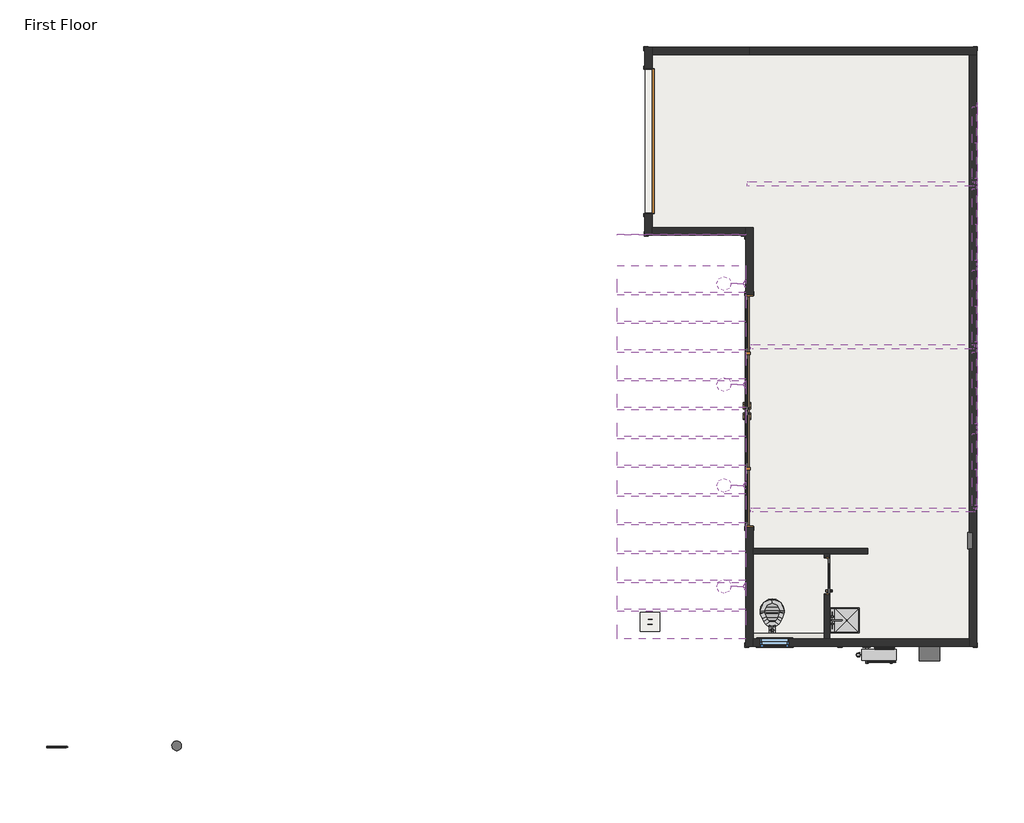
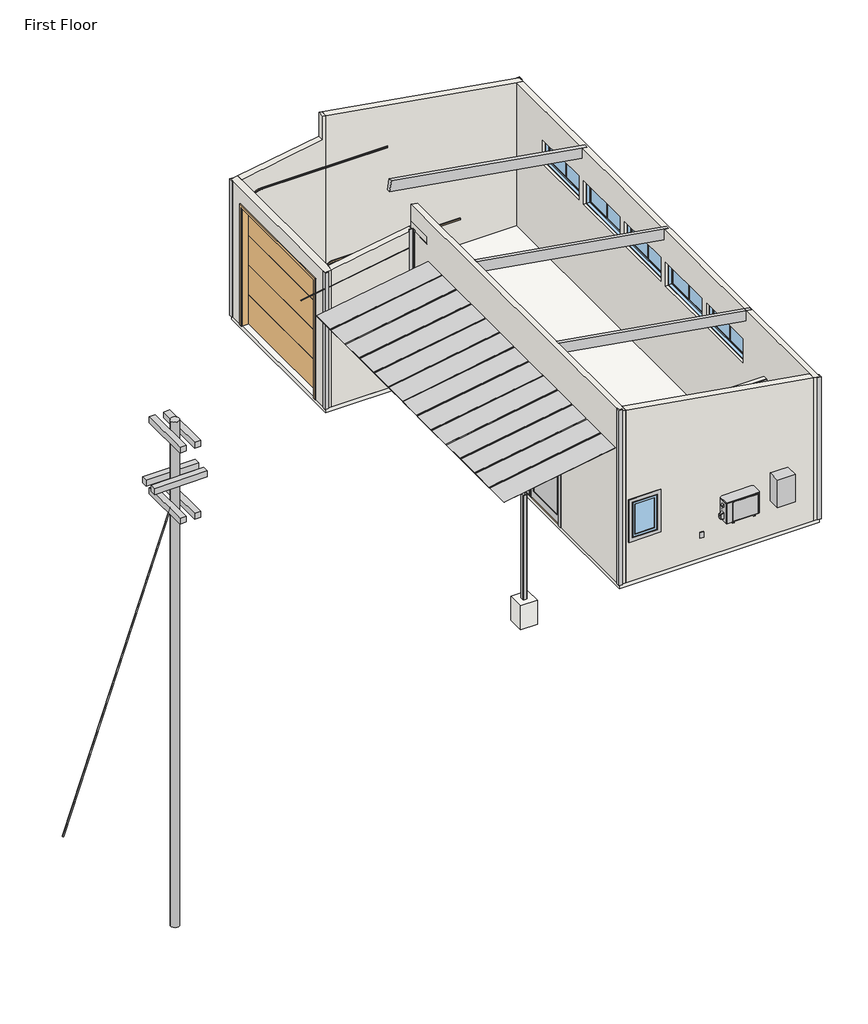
# One storey, incomplete: 27 proxies, 14 plates, 10 walls, 6 windows, 4 flow terminals, 4 light fixtures, 3 beams, 3 doors, 4 other elements.
"""IFC4 building model written with IfcOpenShell, lengths in millimetres."""

from ifc_helpers import new_model, si_unit, frame, origin, place, context, project, spatial, polyline, outline, extrude, faceted_brep, transform, mapped, element, save
from components import beam_2c6c7f6a, beam_14328633, beam_e43a8435, mechanical_equipment_aaba3eb6, corner_trim_corner_trim_585ee0fa, corner_trim_corner_trim_535f8f48, corner_trim_corner_trim_7638318b, corner_trim_corner_trim_e06842d9, door_slab_single_clear_bae8c83d, door_slab_single_door_slab_single_75744a2c, door_trim_picture_frame_standard_156ac413, electrical_panel_electrical_panel_b61275ab, muntin_pattern_2x1_muntin_pattern_2x1_0ce9f3d9, trim_window_exterior_flat_picture_frame_fb448c29, trim_window_interior_flat_picture_frame_c160d771, hss_hollow_structural_section_column_hss4x4x1_4_654df1e9, door_exterior_double_w_sidelights_16080_06d0ee3c, door_garage_flush_panel_100100_77b9260a, door_interior_shared_slab_2668_a920907e, hose_bib_single_with_trim_hose_bib_single_with_trim_27b6def0, plumbing_fixtures_generic_laundry_sink_plumbing_fixtures_38895788, tankless_water_heater_tankless_water_heater_312b1451, flow_terminal_46437620, utility_pole_e77af8a2, barn_light_barn_light_90f81144, system_panel_empty_106bb99e, system_panel_empty_6771c708, system_panel_empty_eeddd460, footing_rectangular_16x16x2_31c1ccfd, window_awning_single_5020_007f8b80, window_casement_single_right_2030_6a3f40d4

model = new_model("IFC4")

# Units and contexts
model_context = context("Model", 3, world=origin())
ifc_project = project(units=[si_unit("LENGTHUNIT", "METRE", prefix="MILLI")], contexts=[model_context])

# Site, building, storey
site = spatial("IfcSite", under=ifc_project)
building = spatial("IfcBuilding", under=site)
storey = spatial("IfcBuildingStorey", under=building, Name="First Floor", Elevation=0.0)

# Beams
placement = place(None, origin())
beam_shape = beam_2c6c7f6a(model_context)
element("IfcBeam", 1, ObjectType="Glulam : 3 1/2\" x 10 1/2\"", at=placement, inside=storey, context=model_context, shape_type="MappedRepresentation", body=[
    mapped(beam_shape, transform((14902.2524783, 9617.7499284, 3936.361554), x_axis=(-0.9863939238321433, 0.0, 0.1643989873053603), y_axis=(0.0, -1.0000000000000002, 0.0), z_axis=(0.16439898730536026, 0.0, 0.9863939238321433))),
])
beam_2_shape = beam_14328633(model_context)
element("IfcBeam", 2, ObjectType="Glulam : 3 1/2\" x 10 1/2\"", at=placement, inside=storey, context=model_context, shape_type="MappedRepresentation", body=[
    mapped(beam_2_shape, transform((14902.2524783, 6163.3499284, 3936.361554), x_axis=(-0.9863939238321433, 0.0, 0.1643989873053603), y_axis=(0.0, -1.0000000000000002, 0.0), z_axis=(0.16439898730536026, 0.0, 0.9863939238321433))),
])
beam_3_shape = beam_e43a8435(model_context)
element("IfcBeam", 3, ObjectType="Glulam : 3 1/2\" x 10 1/2\"", at=placement, inside=storey, context=model_context, shape_type="MappedRepresentation", body=[
    mapped(beam_3_shape, transform((14901.2099003, 13072.1499284, 3936.535317), x_axis=(-0.9863939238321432, 0.0, 0.16439898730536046), y_axis=(0.0, -1.0, 0.0), z_axis=(0.16439898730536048, 0.0, 0.9863939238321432))),
])

# Proxies
mechanical_equipment_shape = mechanical_equipment_aaba3eb6(model_context)
element("IfcBuildingElementProxy", 4, Name="Heat Pump-Split System-Outdoor-Carrier-Single Phase-0.75-3 ton : 38MAQB12R--1 - 115 v", ObjectType="Heat Pump-Split System-Outdoor-Carrier-Single Phase-0.75-3 ton : 38MAQB12R--1 - 115 v", at=placement, inside=storey, context=model_context, shape_type="MappedRepresentation", body=[
    mapped(mechanical_equipment_shape, transform((15305.1823175, 3096.1436614, 914.4), x_axis=(-1.0, 0.0, 0.0), y_axis=(0.0, -1.0, 0.0), z_axis=(0.0, 0.0, 1.0))),
])
corner_trim_corner_trim_shape = corner_trim_corner_trim_585ee0fa(model_context)
element("IfcBuildingElementProxy", 5, Name="Corner Trim : Corner Trim", ObjectType="Corner Trim : Corner Trim", at=placement, inside=storey, context=model_context, shape_type="MappedRepresentation", body=[
    mapped(corner_trim_corner_trim_shape, transform((17387.9750833, 3255.0499284, 0.0), x_axis=(0.0, 1.0, 0.0), y_axis=(-1.0, 0.0, 0.0), z_axis=(0.0, 0.0, 1.0))),
])
element("IfcBuildingElementProxy", 6, Name="Corner Trim : Corner Trim", ObjectType="Corner Trim : Corner Trim", at=placement, inside=storey, context=model_context, shape_type="MappedRepresentation", body=[
    mapped(corner_trim_corner_trim_shape, transform((17387.9750833, 15980.4499284, 0.0), x_axis=(-1.0, 0.0, 0.0), y_axis=(0.0, -1.0, 0.0), z_axis=(0.0, 0.0, 1.0))),
])
corner_trim_corner_trim_2_shape = corner_trim_corner_trim_535f8f48(model_context)
element("IfcBuildingElementProxy", 7, Name="Corner Trim : Corner Trim", ObjectType="Corner Trim : Corner Trim", at=placement, inside=storey, context=model_context, shape_type="MappedRepresentation", body=[
    mapped(corner_trim_corner_trim_2_shape, transform((10326.7750833, 15980.4499284, 0.0), x_axis=(0.0, -1.0, 0.0), y_axis=(1.0, 0.0, 0.0), z_axis=(0.0, 0.0, 1.0))),
])
element("IfcBuildingElementProxy", 8, Name="Corner Trim : Corner Trim", ObjectType="Corner Trim : Corner Trim", at=placement, inside=storey, context=model_context, shape_type="MappedRepresentation", body=[
    mapped(corner_trim_corner_trim_2_shape, transform((10329.1880833, 11969.6629284, 0.0), x_axis=(1.0, 0.0, 0.0), y_axis=(0.0, 1.0, 0.0), z_axis=(0.0, 0.0, 1.0))),
])
corner_trim_corner_trim_3_shape = corner_trim_corner_trim_7638318b(model_context)
element("IfcBuildingElementProxy", 9, Name="Corner Trim : Corner Trim", ObjectType="Corner Trim : Corner Trim", at=placement, inside=storey, context=model_context, shape_type="MappedRepresentation", body=[
    mapped(corner_trim_corner_trim_3_shape, transform((12460.3750833, 3255.0499284, 0.0), x_axis=(1.0, 0.0, 0.0), y_axis=(0.0, 1.0, 0.0), z_axis=(0.0, 0.0, 1.0))),
])
corner_trim_corner_trim_4_shape = corner_trim_corner_trim_e06842d9(model_context)
element("IfcBuildingElementProxy", 10, Name="Corner Trim : Corner Trim", ObjectType="Corner Trim : Corner Trim", at=placement, inside=storey, context=model_context, shape_type="MappedRepresentation", body=[
    mapped(corner_trim_corner_trim_4_shape, transform((12479.4250833, 11986.2999284, 0.0), x_axis=(-1.0, 0.0, 0.0), y_axis=(0.0, -1.0, 0.0), z_axis=(0.0, 0.0, 1.0))),
])
door_slab_single_clear_shape = door_slab_single_clear_bae8c83d(model_context)
element("IfcBuildingElementProxy", 11, Name="Door Slab Single : Clear", ObjectType="Door Slab Single : Clear", at=placement, inside=storey, context=model_context, shape_type="MappedRepresentation", body=[
    mapped(door_slab_single_clear_shape, transform((12509.5875833, 8855.7499284, 0.0), x_axis=(0.0, -1.0, 0.0), y_axis=(1.0, 0.0, 0.0), z_axis=(0.0, 0.0, 1.0))),
])
element("IfcBuildingElementProxy", 12, Name="Door Slab Single : Clear", ObjectType="Door Slab Single : Clear", at=placement, inside=storey, context=model_context, shape_type="MappedRepresentation", body=[
    mapped(door_slab_single_clear_shape, transform((12509.5875833, 7661.9499284, 0.0), x_axis=(0.0, -1.0, 0.0), y_axis=(1.0, 0.0, 0.0), z_axis=(0.0, 0.0, 1.0))),
])
element("IfcBuildingElementProxy", 13, Name="Door Slab Single : Clear", ObjectType="Door Slab Single : Clear", at=placement, inside=storey, context=model_context, shape_type="MappedRepresentation", body=[
    mapped(door_slab_single_clear_shape, transform((12509.5875833, 10100.3499284, 0.0), x_axis=(0.0, -1.0, 0.0), y_axis=(1.0, 0.0, 0.0), z_axis=(0.0, 0.0, 1.0))),
])
element("IfcBuildingElementProxy", 14, Name="Door Slab Single : Clear", ObjectType="Door Slab Single : Clear", at=placement, inside=storey, context=model_context, shape_type="MappedRepresentation", body=[
    mapped(door_slab_single_clear_shape, transform((12509.5875833, 6417.3499284, 0.0), x_axis=(0.0, -1.0, 0.0), y_axis=(1.0, 0.0, 0.0), z_axis=(0.0, 0.0, 1.0))),
])
door_slab_single_door_slab_single_shape = door_slab_single_door_slab_single_75744a2c(model_context)
element("IfcBuildingElementProxy", 15, Name="Door Slab Single : Door Slab Single", ObjectType="Door Slab Single : Door Slab Single", at=placement, inside=storey, context=model_context, shape_type="MappedRepresentation", body=[
    mapped(door_slab_single_door_slab_single_shape, transform((14246.3125833, 4765.9435284, 0.0), x_axis=(0.0, 1.0, 0.0), y_axis=(-1.0, 0.0, 0.0), z_axis=(0.0, 0.0, 1.0))),
])
door_trim_picture_frame_standard_shape = door_trim_picture_frame_standard_156ac413(model_context)
element("IfcBuildingElementProxy", 16, Name="Door Trim Picture Frame : Standard", ObjectType="Door Trim Picture Frame : Standard", at=placement, inside=storey, context=model_context, shape_type="MappedRepresentation", body=[
    mapped(door_trim_picture_frame_standard_shape, transform((12479.4250833, 8258.8499284, 2463.8), x_axis=(0.0, 1.0, 0.0), y_axis=(0.0, 0.0, -1.0), z_axis=(-1.0, 0.0, 0.0))),
])
element("IfcBuildingElementProxy", 17, Name="Door Trim Picture Frame : Standard", ObjectType="Door Trim Picture Frame : Standard", at=placement, inside=storey, context=model_context, shape_type="MappedRepresentation", body=[
    mapped(door_trim_picture_frame_standard_shape, transform((12638.1750833, 8258.8499284, 2463.8), x_axis=(0.0, -1.0, 0.0), y_axis=(0.0, 0.0, -1.0), z_axis=(1.0, 0.0, 0.0))),
])
electrical_panel_electrical_panel_shape = electrical_panel_electrical_panel_b61275ab(model_context)
element("IfcBuildingElementProxy", 18, Name="Electrical Panel : Electrical Panel", ObjectType="Electrical Panel : Electrical Panel", at=placement, inside=storey, context=model_context, shape_type="MappedRepresentation", body=[
    mapped(electrical_panel_electrical_panel_shape, transform((17210.1750833, 5510.7223284, 1219.2), x_axis=(0.0, -1.0, 0.0), y_axis=(0.0, 0.0, 1.0), z_axis=(-1.0, 0.0, 0.0))),
])
muntin_pattern_2x1_muntin_pattern_2x1_shape = muntin_pattern_2x1_muntin_pattern_2x1_0ce9f3d9(model_context)
element("IfcBuildingElementProxy", 19, Name="Muntin Pattern_2x1 : Muntin Pattern_2x1", ObjectType="Muntin Pattern_2x1 : Muntin Pattern_2x1", at=placement, inside=storey, context=model_context, shape_type="MappedRepresentation", body=[
    mapped(muntin_pattern_2x1_muntin_pattern_2x1_shape, transform((17359.4000833, 13941.5372614, 2330.45), x_axis=(0.0, -1.0, 0.0), y_axis=(1.0, 0.0, 0.0), z_axis=(0.0, 0.0, 1.0))),
])
element("IfcBuildingElementProxy", 20, Name="Muntin Pattern_2x1 : Muntin Pattern_2x1", ObjectType="Muntin Pattern_2x1 : Muntin Pattern_2x1", at=placement, inside=storey, context=model_context, shape_type="MappedRepresentation", body=[
    mapped(muntin_pattern_2x1_muntin_pattern_2x1_shape, transform((17359.4000833, 12211.1622614, 2330.45), x_axis=(0.0, -1.0, 0.0), y_axis=(1.0, 0.0, 0.0), z_axis=(0.0, 0.0, 1.0))),
])
element("IfcBuildingElementProxy", 21, Name="Muntin Pattern_2x1 : Muntin Pattern_2x1", ObjectType="Muntin Pattern_2x1 : Muntin Pattern_2x1", at=placement, inside=storey, context=model_context, shape_type="MappedRepresentation", body=[
    mapped(muntin_pattern_2x1_muntin_pattern_2x1_shape, transform((17359.4000833, 10480.7872614, 2330.45), x_axis=(0.0, -1.0, 0.0), y_axis=(1.0, 0.0, 0.0), z_axis=(0.0, 0.0, 1.0))),
])
element("IfcBuildingElementProxy", 22, Name="Muntin Pattern_2x1 : Muntin Pattern_2x1", ObjectType="Muntin Pattern_2x1 : Muntin Pattern_2x1", at=placement, inside=storey, context=model_context, shape_type="MappedRepresentation", body=[
    mapped(muntin_pattern_2x1_muntin_pattern_2x1_shape, transform((17359.4000833, 8750.4122614, 2330.45), x_axis=(0.0, -1.0, 0.0), y_axis=(1.0, 0.0, 0.0), z_axis=(0.0, 0.0, 1.0))),
])
element("IfcBuildingElementProxy", 23, Name="Muntin Pattern_2x1 : Muntin Pattern_2x1", ObjectType="Muntin Pattern_2x1 : Muntin Pattern_2x1", at=placement, inside=storey, context=model_context, shape_type="MappedRepresentation", body=[
    mapped(muntin_pattern_2x1_muntin_pattern_2x1_shape, transform((17359.4000833, 7020.0372614, 2330.45), x_axis=(0.0, -1.0, 0.0), y_axis=(1.0, 0.0, 0.0), z_axis=(0.0, 0.0, 1.0))),
])
trim_window_exterior_flat_picture_frame_shape = trim_window_exterior_flat_picture_frame_fb448c29(model_context)
element("IfcBuildingElementProxy", 24, Name="Trim-Window-Exterior-Flat : Picture Frame", ObjectType="Trim-Window-Exterior-Flat : Picture Frame", at=placement, inside=storey, context=model_context, shape_type="MappedRepresentation", body=[
    mapped(trim_window_exterior_flat_picture_frame_shape, transform((13093.4954833, 3274.0999284, 2032.0), x_axis=(1.0, 0.0, 0.0), y_axis=(0.0, 0.0, 1.0), z_axis=(0.0, -1.0, 0.0))),
])
element("IfcBuildingElementProxy", 25, Name="Trim-Window-Exterior-Flat : Picture Frame Left", ObjectType="Trim-Window-Exterior-Flat : Picture Frame Left", at=placement, inside=storey, context=model_context, shape_type="SweptSolid", body=[
    extrude(outline(polyline([(7885.2247614, 2959.1), (7885.2247614, 2171.7), (6169.1372614, 2171.7), (6169.1372614, 2959.1), (7885.2247614, 2959.1)]), holes=[polyline([(7782.0372614, 2870.2), (6258.0372614, 2870.2), (6258.0372614, 2260.6), (7782.0372614, 2260.6), (7782.0372614, 2870.2)])]), frame((17368.9250833, 0.0, 0.0), z_axis=(1.0, 0.0, 0.0), x_axis=(0.0, 1.0, 0.0)), (0.0, 0.0, 1.0), 19.05),
])
element("IfcBuildingElementProxy", 26, Name="Trim-Window-Exterior-Flat : Picture Frame Middle", ObjectType="Trim-Window-Exterior-Flat : Picture Frame Middle", at=placement, inside=storey, context=model_context, shape_type="SweptSolid", body=[
    extrude(outline(polyline([(9615.5997614, 2959.1), (9615.5997614, 2171.7), (7885.2247614, 2171.7), (7885.2247614, 2959.1), (9615.5997614, 2959.1)]), holes=[polyline([(9512.4122614, 2870.2), (7988.4122614, 2870.2), (7988.4122614, 2260.6), (9512.4122614, 2260.6), (9512.4122614, 2870.2)])]), frame((17368.9250833, 0.0, 0.0), z_axis=(1.0, 0.0, 0.0), x_axis=(0.0, 1.0, 0.0)), (0.0, 0.0, 1.0), 19.05),
])
element("IfcBuildingElementProxy", 27, Name="Trim-Window-Exterior-Flat : Picture Frame Middle", ObjectType="Trim-Window-Exterior-Flat : Picture Frame Middle", at=placement, inside=storey, context=model_context, shape_type="SweptSolid", body=[
    extrude(outline(polyline([(11345.9747614, 2959.1), (11345.9747614, 2171.7), (9615.5997614, 2171.7), (9615.5997614, 2959.1), (11345.9747614, 2959.1)]), holes=[polyline([(11242.7872614, 2870.2), (9718.7872614, 2870.2), (9718.7872614, 2260.6), (11242.7872614, 2260.6), (11242.7872614, 2870.2)])]), frame((17368.9250833, 0.0, 0.0), z_axis=(1.0, 0.0, 0.0), x_axis=(0.0, 1.0, 0.0)), (0.0, 0.0, 1.0), 19.05),
])
element("IfcBuildingElementProxy", 28, Name="Trim-Window-Exterior-Flat : Picture Frame Middle", ObjectType="Trim-Window-Exterior-Flat : Picture Frame Middle", at=placement, inside=storey, context=model_context, shape_type="SweptSolid", body=[
    extrude(outline(polyline([(13076.3497614, 2959.1), (13076.3497614, 2171.7), (11345.9747614, 2171.7), (11345.9747614, 2959.1), (13076.3497614, 2959.1)]), holes=[polyline([(12973.1622614, 2870.2), (11449.1622614, 2870.2), (11449.1622614, 2260.6), (12973.1622614, 2260.6), (12973.1622614, 2870.2)])]), frame((17368.9250833, 0.0, 0.0), z_axis=(1.0, 0.0, 0.0), x_axis=(0.0, 1.0, 0.0)), (0.0, 0.0, 1.0), 19.05),
])
element("IfcBuildingElementProxy", 29, Name="Trim-Window-Exterior-Flat : Picture Frame Right", ObjectType="Trim-Window-Exterior-Flat : Picture Frame Right", at=placement, inside=storey, context=model_context, shape_type="SweptSolid", body=[
    extrude(outline(polyline([(14792.4372614, 2959.1), (14792.4372614, 2171.7), (13076.3497614, 2171.7), (13076.3497614, 2959.1), (14792.4372614, 2959.1)]), holes=[polyline([(14703.5372614, 2870.2), (13179.5372614, 2870.2), (13179.5372614, 2260.6), (14703.5372614, 2260.6), (14703.5372614, 2870.2)])]), frame((17368.9250833, 0.0, 0.0), z_axis=(1.0, 0.0, 0.0), x_axis=(0.0, 1.0, 0.0)), (0.0, 0.0, 1.0), 19.05),
])
trim_window_interior_flat_picture_frame_shape = trim_window_interior_flat_picture_frame_c160d771(model_context)
element("IfcBuildingElementProxy", 30, Name="Trim-Window-Interior-Flat : Picture Frame", ObjectType="Trim-Window-Interior-Flat : Picture Frame", at=placement, inside=storey, context=model_context, shape_type="MappedRepresentation", body=[
    mapped(trim_window_interior_flat_picture_frame_shape, transform((13093.4954833, 3432.8499284, 2032.0), x_axis=(-1.0, 0.0, 0.0), y_axis=(0.0, 0.0, 1.0), z_axis=(0.0, 1.0, 0.0))),
])

# Column
hss_hollow_structural_section_column_hss4x4x1_4_shape = hss_hollow_structural_section_column_hss4x4x1_4_654df1e9(model_context)
element("IfcColumn", 31, ObjectType="HSS-Hollow Structural Section-Column : HSS4X4X1/4", at=placement, inside=storey, context=model_context, shape_type="MappedRepresentation", body=[
    mapped(hss_hollow_structural_section_column_hss4x4x1_4_shape, transform((10457.4307224, 3791.1892614, 0.0), x_axis=(1.0, 0.0, 0.0), y_axis=(0.0, 1.0, 0.0), z_axis=(0.0, 0.0, 1.0))),
])

# Doors
door_exterior_double_w_sidelights_16080_shape = door_exterior_double_w_sidelights_16080_06d0ee3c(model_context)
element("IfcDoor", 32, ObjectType="Door-Exterior-Double-w-Sidelights : 16080", at=placement, inside=storey, context=model_context, shape_type="MappedRepresentation", body=[
    mapped(door_exterior_double_w_sidelights_16080_shape, transform((12555.6250833, 8258.8499284, 0.0), x_axis=(0.0, -1.0, 0.0), y_axis=(1.0, 0.0, 0.0), z_axis=(0.0, 0.0, 1.0))),
])
door_garage_flush_panel_100100_shape = door_garage_flush_panel_100100_77b9260a(model_context)
element("IfcDoor", 33, ObjectType="Door-Garage-Flush_Panel : 100100", at=placement, inside=storey, context=model_context, shape_type="MappedRepresentation", body=[
    mapped(door_garage_flush_panel_100100_shape, transform((10422.0250833, 13974.4595284, 0.0), x_axis=(0.0, 1.0, 0.0), y_axis=(-1.0, 0.0, 0.0), z_axis=(0.0, 0.0, 1.0))),
])
door_interior_shared_slab_2668_shape = door_interior_shared_slab_2668_a920907e(model_context)
element("IfcDoor", 34, ObjectType="Door-Interior-Shared-Slab : 2668", at=placement, inside=storey, context=model_context, shape_type="MappedRepresentation", body=[
    mapped(door_interior_shared_slab_2668_shape, transform((14209.8000833, 4765.9435284, 0.0), x_axis=(0.0, 1.0, 0.0), y_axis=(-1.0, 0.0, 0.0), z_axis=(0.0, 0.0, 1.0))),
])

# Flow terminals
hose_bib_single_with_trim_hose_bib_single_with_trim_shape = hose_bib_single_with_trim_hose_bib_single_with_trim_27b6def0(model_context)
element("IfcFlowTerminal", 35, ObjectType="Hose Bib Single with Trim : Hose Bib Single with Trim", at=placement, inside=storey, context=model_context, shape_type="MappedRepresentation", body=[
    mapped(hose_bib_single_with_trim_hose_bib_single_with_trim_shape, transform((14465.778529, 3353.4749284, -211.2264), x_axis=(-1.0, 0.0, 0.0), y_axis=(0.0, -1.0, 0.0), z_axis=(0.0, 0.0, 1.0))),
])
plumbing_fixtures_generic_laundry_sink_plumbing_fixtures_shape = plumbing_fixtures_generic_laundry_sink_plumbing_fixtures_38895788(model_context)
element("IfcFlowTerminal", 36, ObjectType="Plumbing_Fixtures-Generic-Laundry_Sink : Plumbing_Fixtures-Generic-Laundry_Sink", at=placement, inside=storey, context=model_context, shape_type="MappedRepresentation", body=[
    mapped(plumbing_fixtures_generic_laundry_sink_plumbing_fixtures_shape, transform((14568.5750833, 3826.2959284, 0.0), x_axis=(0.0, 1.0, 0.0), y_axis=(-1.0, 0.0, 0.0), z_axis=(0.0, 0.0, 1.0))),
])
tankless_water_heater_tankless_water_heater_shape = tankless_water_heater_tankless_water_heater_312b1451(model_context)
element("IfcFlowTerminal", 37, ObjectType="Tankless Water Heater : Tankless Water Heater", at=placement, inside=storey, context=model_context, shape_type="MappedRepresentation", body=[
    mapped(tankless_water_heater_tankless_water_heater_shape, transform((16375.1500833, 3274.0999284, 1244.6), x_axis=(1.0, 0.0, 0.0), y_axis=(0.0, 0.0, 1.0), z_axis=(0.0, -1.0, 0.0))),
])
flow_terminal_shape = flow_terminal_46437620(model_context)
element("IfcFlowTerminal", 38, ObjectType="Toilet-Commercial-Wall-3D : 15\" Seat Height", at=placement, inside=storey, context=model_context, shape_type="MappedRepresentation", body=[
    mapped(flow_terminal_shape, transform((12637.9955294, 3489.9999284, 0.0), x_axis=(1.0, 0.0, 0.0), y_axis=(0.0, 1.0, 0.0), z_axis=(0.0, 0.0, 1.0))),
])

# Geographic element
utility_pole_shape = utility_pole_e77af8a2(model_context)
element("IfcGeographicElement", 39, ObjectType="Utility-Pole : All-Utilities", at=placement, inside=storey, context=model_context, shape_type="MappedRepresentation", body=[
    mapped(utility_pole_shape, transform((435.5766605, 1169.3025477, 0.0), x_axis=(0.9999507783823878, 0.00992173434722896, 0.0), y_axis=(-0.00992173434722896, 0.9999507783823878, 0.0), z_axis=(0.0, 0.0, 1.0))),
])

# Light fixtures
barn_light_barn_light_shape = barn_light_barn_light_90f81144(model_context)
element("IfcLightFixture", 40, ObjectType="Barn Light : Barn Light", at=placement, inside=storey, context=model_context, shape_type="MappedRepresentation", body=[
    mapped(barn_light_barn_light_shape, transform((12479.4250833, 10958.5651284, 2743.2), x_axis=(0.0, -1.0, 0.0), y_axis=(0.0, 0.0, 1.0), z_axis=(-1.0, 0.0, 0.0))),
])
element("IfcLightFixture", 41, ObjectType="Barn Light : Barn Light", at=placement, inside=storey, context=model_context, shape_type="MappedRepresentation", body=[
    mapped(barn_light_barn_light_shape, transform((12479.4250833, 8820.4608617, 2743.2), x_axis=(0.0, -1.0, 0.0), y_axis=(0.0, 0.0, 1.0), z_axis=(-1.0, 0.0, 0.0))),
])
element("IfcLightFixture", 42, ObjectType="Barn Light : Barn Light", at=placement, inside=storey, context=model_context, shape_type="MappedRepresentation", body=[
    mapped(barn_light_barn_light_shape, transform((12479.4250833, 6682.3565951, 2743.2), x_axis=(0.0, -1.0, 0.0), y_axis=(0.0, 0.0, 1.0), z_axis=(-1.0, 0.0, 0.0))),
])
element("IfcLightFixture", 43, ObjectType="Barn Light : Barn Light", at=placement, inside=storey, context=model_context, shape_type="MappedRepresentation", body=[
    mapped(barn_light_barn_light_shape, transform((12479.4250833, 4544.2523284, 2743.2), x_axis=(0.0, -1.0, 0.0), y_axis=(0.0, 0.0, 1.0), z_axis=(-1.0, 0.0, 0.0))),
])

# Plates
system_panel_empty_shape = system_panel_empty_106bb99e(model_context)
element("IfcPlate", 44, ObjectType="System Panel : Empty", at=placement, inside=storey, context=model_context, shape_type="MappedRepresentation", body=[
    mapped(system_panel_empty_shape, transform((9759.2780204, 11052.8499287, 2990.2963878), x_axis=(0.0, -1.0, 0.0), y_axis=(0.1643989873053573, 0.0, -0.9863939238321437), z_axis=(0.9863939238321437, 0.0, 0.1643989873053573))),
])
element("IfcPlate", 45, ObjectType="System Panel : Empty", at=placement, inside=storey, context=model_context, shape_type="MappedRepresentation", body=[
    mapped(system_panel_empty_shape, transform((9759.2780204, 10443.2499287, 2990.2963878), x_axis=(0.0, -1.0, 0.0), y_axis=(0.1643989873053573, 0.0, -0.9863939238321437), z_axis=(0.9863939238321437, 0.0, 0.1643989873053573))),
])
element("IfcPlate", 46, ObjectType="System Panel : Empty", at=placement, inside=storey, context=model_context, shape_type="MappedRepresentation", body=[
    mapped(system_panel_empty_shape, transform((9759.2780204, 9833.6499287, 2990.2963878), x_axis=(0.0, -1.0, 0.0), y_axis=(0.1643989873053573, 0.0, -0.9863939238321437), z_axis=(0.9863939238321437, 0.0, 0.1643989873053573))),
])
element("IfcPlate", 47, ObjectType="System Panel : Empty", at=placement, inside=storey, context=model_context, shape_type="MappedRepresentation", body=[
    mapped(system_panel_empty_shape, transform((9759.2780204, 9224.0499287, 2990.2963878), x_axis=(0.0, -1.0, 0.0), y_axis=(0.1643989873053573, 0.0, -0.9863939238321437), z_axis=(0.9863939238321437, 0.0, 0.1643989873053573))),
])
element("IfcPlate", 48, ObjectType="System Panel : Empty", at=placement, inside=storey, context=model_context, shape_type="MappedRepresentation", body=[
    mapped(system_panel_empty_shape, transform((9759.2780204, 8614.4499287, 2990.2963878), x_axis=(0.0, -1.0, 0.0), y_axis=(0.1643989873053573, 0.0, -0.9863939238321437), z_axis=(0.9863939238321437, 0.0, 0.1643989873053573))),
])
element("IfcPlate", 49, ObjectType="System Panel : Empty", at=placement, inside=storey, context=model_context, shape_type="MappedRepresentation", body=[
    mapped(system_panel_empty_shape, transform((9759.2780204, 8004.8499287, 2990.2963878), x_axis=(0.0, -1.0, 0.0), y_axis=(0.1643989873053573, 0.0, -0.9863939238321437), z_axis=(0.9863939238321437, 0.0, 0.1643989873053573))),
])
element("IfcPlate", 50, ObjectType="System Panel : Empty", at=placement, inside=storey, context=model_context, shape_type="MappedRepresentation", body=[
    mapped(system_panel_empty_shape, transform((9759.2780204, 7395.2499287, 2990.2963878), x_axis=(0.0, -1.0, 0.0), y_axis=(0.1643989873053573, 0.0, -0.9863939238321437), z_axis=(0.9863939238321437, 0.0, 0.1643989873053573))),
])
element("IfcPlate", 51, ObjectType="System Panel : Empty", at=placement, inside=storey, context=model_context, shape_type="MappedRepresentation", body=[
    mapped(system_panel_empty_shape, transform((9759.2780204, 6785.6499287, 2990.2963878), x_axis=(0.0, -1.0, 0.0), y_axis=(0.1643989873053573, 0.0, -0.9863939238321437), z_axis=(0.9863939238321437, 0.0, 0.1643989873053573))),
])
element("IfcPlate", 52, ObjectType="System Panel : Empty", at=placement, inside=storey, context=model_context, shape_type="MappedRepresentation", body=[
    mapped(system_panel_empty_shape, transform((9759.2780204, 6176.0499287, 2990.2963878), x_axis=(0.0, -1.0, 0.0), y_axis=(0.1643989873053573, 0.0, -0.9863939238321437), z_axis=(0.9863939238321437, 0.0, 0.1643989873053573))),
])
element("IfcPlate", 53, ObjectType="System Panel : Empty", at=placement, inside=storey, context=model_context, shape_type="MappedRepresentation", body=[
    mapped(system_panel_empty_shape, transform((9759.2780204, 5566.4499287, 2990.2963878), x_axis=(0.0, -1.0, 0.0), y_axis=(0.1643989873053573, 0.0, -0.9863939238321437), z_axis=(0.9863939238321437, 0.0, 0.1643989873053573))),
])
element("IfcPlate", 54, ObjectType="System Panel : Empty", at=placement, inside=storey, context=model_context, shape_type="MappedRepresentation", body=[
    mapped(system_panel_empty_shape, transform((9759.2780204, 4956.8499287, 2990.2963878), x_axis=(0.0, -1.0, 0.0), y_axis=(0.1643989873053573, 0.0, -0.9863939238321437), z_axis=(0.9863939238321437, 0.0, 0.1643989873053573))),
])
element("IfcPlate", 55, ObjectType="System Panel : Empty", at=placement, inside=storey, context=model_context, shape_type="MappedRepresentation", body=[
    mapped(system_panel_empty_shape, transform((9759.2780204, 4347.2499287, 2990.2963878), x_axis=(0.0, -1.0, 0.0), y_axis=(0.1643989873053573, 0.0, -0.9863939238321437), z_axis=(0.9863939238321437, 0.0, 0.1643989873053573))),
])
system_panel_empty_2_shape = system_panel_empty_6771c708(model_context)
element("IfcPlate", 56, ObjectType="System Panel : Empty", at=placement, inside=storey, context=model_context, shape_type="MappedRepresentation", body=[
    mapped(system_panel_empty_2_shape, transform((9759.2780204, 11996.7409469, 2990.2963878), x_axis=(0.0, -1.0, 0.0), y_axis=(0.1643989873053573, 0.0, -0.9863939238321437), z_axis=(0.9863939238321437, 0.0, 0.1643989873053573))),
])
system_panel_empty_3_shape = system_panel_empty_eeddd460(model_context)
element("IfcPlate", 57, ObjectType="System Panel : Empty", at=placement, inside=storey, context=model_context, shape_type="MappedRepresentation", body=[
    mapped(system_panel_empty_3_shape, transform((9759.2780204, 3728.1249286, 2990.2963878), x_axis=(0.0, -1.0, 0.0), y_axis=(0.1643989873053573, 0.0, -0.9863939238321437), z_axis=(0.9863939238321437, 0.0, 0.1643989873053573))),
])

# Slabs
element("IfcSlab", 58, ObjectType="Concrete 4\" Broom", at=placement, inside=storey, context=model_context, shape_type="SweptSolid", body=[
    extrude(outline(polyline([(10352.1750833, 15955.0499284), (17362.5750833, 15955.0499284), (17362.5750833, 3280.4499284), (12485.7750833, 3280.4499284), (12485.7750833, 11992.6499284), (10352.1750833, 11992.6499284), (10352.1750833, 15955.0499284)])), frame((0.0, 0.0, -101.6), z_axis=(0.0, 0.0, 1.0), x_axis=(1.0, 0.0, 0.0)), (0.0, 0.0, 1.0), 101.6),
])
footing_rectangular_16x16x2_shape = footing_rectangular_16x16x2_31c1ccfd(model_context)
element("IfcSlab", 59, ObjectType="Footing-Rectangular : 16x16x2", at=placement, inside=storey, context=model_context, shape_type="MappedRepresentation", body=[
    mapped(footing_rectangular_16x16x2_shape, transform((10457.4307224, 3791.1892614, 50.8), x_axis=(1.0, 0.0, 0.0), y_axis=(0.0, 1.0, 0.0), z_axis=(0.0, 0.0, 1.0))),
])

# Walls
element("IfcWall", 60, ObjectType="Interior 4” Stud Wall Plywood", at=placement, inside=storey, context=model_context, shape_type="Brep", body=[
    faceted_brep([(14149.4750833, 3432.8499284, 2133.6), (14149.4750833, 5236.2499284, 2133.6), (14149.4750833, 5236.2499284, 0.0), (14149.4750833, 5172.3435284, 0.0), (14149.4750833, 5172.3435284, 2057.4), (14149.4750833, 4359.5435284, 2057.4), (14149.4750833, 4359.5435284, 0.0), (14149.4750833, 3547.1499284, 0.0), (14149.4750833, 3432.8499284, 0.0), (14149.4750833, 3432.8499284, 1117.6), (14263.7750833, 5236.2499284, 2133.6), (14263.7750833, 3432.8499284, 2133.6), (14263.7750833, 3432.8499284, 0.0), (14263.7750833, 4359.5435284, 0.0), (14263.7750833, 4359.5435284, 2057.4), (14263.7750833, 5172.3435284, 2057.4), (14263.7750833, 5172.3435284, 0.0), (14263.7750833, 5236.2499284, 0.0), (14162.1750833, 5236.2499284, 2133.6), (14162.1750833, 3432.8499284, 2133.6)], [[[0, 1, 2, 3, 4, 5, 6, 7, 8, 9]], [[10, 11, 12, 13, 14, 15, 16, 17]], [[12, 8, 7, 6, 13]], [[2, 17, 16, 3]], [[11, 10, 18, 19]], [[1, 0, 19, 18]], [[0, 9, 8, 12, 11, 19]], [[2, 1, 18, 10, 17]], [[15, 4, 3, 16]], [[4, 15, 14, 5]], [[5, 14, 13, 6]]]),
])
element("IfcWall", 61, ObjectType="Interior 4” Stud Wall Plywood", at=placement, inside=storey, context=model_context, shape_type="Brep", body=[
    faceted_brep([(12638.1750833, 5236.2499284, 0.0), (14149.4750833, 5236.2499284, 0.0), (14263.7750833, 5236.2499284, 0.0), (15063.8750833, 5236.2499284, 0.0), (15063.8750833, 5236.2499284, 2254.25), (17210.1750833, 5236.2499284, 2254.25), (17210.1750833, 5236.2499284, 2457.45), (12638.1750833, 5236.2499284, 2457.45), (12638.1750833, 5350.5499284, 0.0), (12638.1750833, 5350.5499284, 2457.45), (17210.1750833, 5350.5499284, 2457.45), (17210.1750833, 5350.5499284, 2254.25), (15063.8750833, 5350.5499284, 2254.25), (15063.8750833, 5350.5499284, 0.0), (17210.1750833, 5248.9499284, 2457.45), (12638.1750833, 5248.9499284, 2457.45)], [[[0, 1, 2, 3, 4, 5, 6, 7]], [[8, 9, 10, 11, 12, 13]], [[7, 6, 14, 15]], [[0, 7, 15, 9, 8]], [[3, 2, 1, 0, 8, 13]], [[4, 3, 13, 12]], [[14, 10, 9, 15]], [[5, 4, 12, 11]], [[6, 5, 11, 10, 14]]]),
])
element("IfcWall", 62, ObjectType="Interior 4” Stud Wall Plywood", at=placement, inside=storey, context=model_context, shape_type="SweptSolid", body=[
    extrude(outline(polyline([(3432.8499284, 0.0), (3432.8499284, 1117.6), (3445.5499284, 1117.6), (3547.1499284, 1117.6), (3547.1499284, 0.0), (3432.8499284, 0.0)])), frame((12638.1750833, 0.0, 0.0), z_axis=(1.0, 0.0, 0.0), x_axis=(0.0, 1.0, 0.0)), (0.0, 0.0, 1.0), 1511.3),
])
element("IfcWall", 63, ObjectType="5.5\" SIP Hardie - Plywood", at=placement, inside=storey, context=model_context, shape_type="Brep", body=[
    faceted_brep([(10504.5750833, 15961.3999284, 0.0), (10504.5750833, 15961.3999284, 3530.6), (10504.5750833, 15802.6499284, 3530.6), (10504.5750833, 12145.0499284, 3530.6), (10504.5750833, 11986.2999284, 3530.6), (10504.5750833, 11986.2999284, 0.0), (10504.5750833, 12145.0499284, 0.0), (10504.5750833, 12425.0595284, 0.0), (10504.5750833, 12425.0595284, 3073.4), (10504.5750833, 15523.8595284, 3073.4), (10504.5750833, 15523.8595284, 0.0), (10504.5750833, 15802.6499284, 0.0), (10345.8250833, 15961.3999284, 3504.1416667), (10345.8250833, 15961.3999284, 0.0), (10345.8250833, 15523.8595284, 0.0), (10345.8250833, 15523.8595284, 3073.4), (10345.8250833, 12425.0595284, 3073.4), (10345.8250833, 12425.0595284, 0.0), (10345.8250833, 11986.2999284, 0.0), (10345.8250833, 11986.2999284, 3504.1416667), (10352.1750833, 15961.3999284, 0.0), (10352.1750833, 15523.8595284, 0.0), (10352.1750833, 11986.2999284, 0.0), (10352.1750833, 12425.0595284, 0.0)], [[[0, 1, 2, 3, 4, 5, 6, 7, 8, 9, 10, 11]], [[12, 13, 14, 15, 16, 17, 18, 19]], [[20, 0, 11, 10, 21]], [[5, 22, 23, 7, 6]], [[1, 0, 20, 13, 12]], [[5, 4, 19, 18, 22]], [[13, 20, 21, 14]], [[22, 18, 17, 23]], [[9, 15, 14, 21, 10]], [[15, 9, 8, 16]], [[16, 8, 7, 23, 17]], [[4, 3, 2, 1, 12, 19]]]),
])
element("IfcWall", 64, ObjectType="5.5\" SIP Hardie - Plywood", at=placement, inside=storey, context=model_context, shape_type="Brep", body=[
    faceted_brep([(10504.5750833, 15802.6499284, 0.0), (12558.8000833, 15802.6499284, 0.0), (12558.8000833, 15802.6499284, 4459.6879505), (12485.7750833, 15802.6499284, 4471.8587838), (12485.7750833, 15802.6499284, 3860.8), (10504.5750833, 15802.6499284, 3530.6), (10504.5750833, 15961.3999284, 0.0), (10504.5750833, 15961.3999284, 3530.6), (12485.7750833, 15961.3999284, 3860.8), (12485.7750833, 15961.3999284, 4471.8587838), (12558.8000833, 15961.3999284, 4459.6879505), (12558.8000833, 15961.3999284, 0.0), (12558.8000833, 15955.0499284, 0.0), (10504.5750833, 15955.0499284, 0.0), (12485.7750833, 15955.0499284, 3860.8)], [[[0, 1, 2, 3, 4, 5]], [[6, 7, 8, 9, 10, 11]], [[2, 1, 12, 11, 10]], [[1, 0, 13, 12]], [[0, 5, 7, 6, 13]], [[13, 6, 11, 12]], [[3, 9, 8, 14, 4]], [[5, 4, 14, 8, 7]], [[3, 2, 10, 9]]]),
])
element("IfcWall", 65, ObjectType="5.5\" SIP Hardie - Plywood", at=placement, inside=storey, context=model_context, shape_type="Brep", body=[
    faceted_brep([(17210.1750833, 15802.6499284, 0.0), (17210.1750833, 3432.8499284, 0.0), (17210.1750833, 3274.0999284, 0.0), (17210.1750833, 3274.0999284, 3684.4587838), (17210.1750833, 3432.8499284, 3684.4587838), (17210.1750833, 15802.6499284, 3684.4587838), (17210.1750833, 6258.0372614, 2870.2), (17210.1750833, 6258.0372614, 2260.6), (17210.1750833, 7782.0372614, 2260.6), (17210.1750833, 7782.0372614, 2870.2), (17210.1750833, 7988.4122614, 2870.2), (17210.1750833, 7988.4122614, 2260.6), (17210.1750833, 9512.4122614, 2260.6), (17210.1750833, 9512.4122614, 2870.2), (17210.1750833, 9718.7872614, 2870.2), (17210.1750833, 9718.7872614, 2260.6), (17210.1750833, 11242.7872614, 2260.6), (17210.1750833, 11242.7872614, 2870.2), (17210.1750833, 11449.1622614, 2870.2), (17210.1750833, 11449.1622614, 2260.6), (17210.1750833, 12973.1622614, 2260.6), (17210.1750833, 12973.1622614, 2870.2), (17210.1750833, 13179.5372614, 2870.2), (17210.1750833, 13179.5372614, 2260.6), (17210.1750833, 14703.5372614, 2260.6), (17210.1750833, 14703.5372614, 2870.2), (17210.1750833, 5688.5223284, 1460.5), (17210.1750833, 5332.9223284, 1460.5), (17210.1750833, 5332.9223284, 977.9), (17210.1750833, 5688.5223284, 977.9), (17368.9250833, 3274.0999284, 0.0), (17368.9250833, 15802.6499284, 0.0), (17368.9250833, 15802.6499284, 3658.0004505), (17368.9250833, 3274.0999284, 3658.0004505), (17368.9250833, 6258.0372614, 2870.2), (17368.9250833, 7782.0372614, 2870.2), (17368.9250833, 7782.0372614, 2260.6), (17368.9250833, 6258.0372614, 2260.6), (17368.9250833, 7988.4122614, 2870.2), (17368.9250833, 9512.4122614, 2870.2), (17368.9250833, 9512.4122614, 2260.6), (17368.9250833, 7988.4122614, 2260.6), (17368.9250833, 9718.7872614, 2870.2), (17368.9250833, 11242.7872614, 2870.2), (17368.9250833, 11242.7872614, 2260.6), (17368.9250833, 9718.7872614, 2260.6), (17368.9250833, 11449.1622614, 2870.2), (17368.9250833, 12973.1622614, 2870.2), (17368.9250833, 12973.1622614, 2260.6), (17368.9250833, 11449.1622614, 2260.6), (17368.9250833, 13179.5372614, 2870.2), (17368.9250833, 14703.5372614, 2870.2), (17368.9250833, 14703.5372614, 2260.6), (17368.9250833, 13179.5372614, 2260.6), (17362.5750833, 15802.6499284, 0.0), (17362.5750833, 3274.0999284, 0.0), (17286.3750833, 5332.9223284, 1460.5), (17286.3750833, 5688.5223284, 1460.5), (17286.3750833, 5688.5223284, 977.9), (17286.3750833, 5332.9223284, 977.9)], [[[0, 1, 2, 3, 4, 5], [6, 7, 8, 9], [10, 11, 12, 13], [14, 15, 16, 17], [18, 19, 20, 21], [22, 23, 24, 25], [26, 27, 28, 29]], [[30, 31, 32, 33], [34, 35, 36, 37], [38, 39, 40, 41], [42, 43, 44, 45], [46, 47, 48, 49], [50, 51, 52, 53]], [[2, 1, 0, 54, 55]], [[0, 5, 32, 31, 54]], [[31, 30, 55, 54]], [[3, 2, 55, 30, 33]], [[5, 4, 3, 33, 32]], [[7, 6, 34, 37]], [[8, 7, 37, 36]], [[9, 8, 36, 35]], [[6, 9, 35, 34]], [[11, 10, 38, 41]], [[12, 11, 41, 40]], [[13, 12, 40, 39]], [[10, 13, 39, 38]], [[15, 14, 42, 45]], [[16, 15, 45, 44]], [[17, 16, 44, 43]], [[14, 17, 43, 42]], [[19, 18, 46, 49]], [[20, 19, 49, 48]], [[21, 20, 48, 47]], [[18, 21, 47, 46]], [[23, 22, 50, 53]], [[24, 23, 53, 52]], [[25, 24, 52, 51]], [[22, 25, 51, 50]], [[56, 57, 58, 59]], [[57, 56, 27, 26]], [[58, 57, 26, 29]], [[59, 58, 29, 28]], [[56, 59, 28, 27]]]),
])
element("IfcWall", 66, ObjectType="5.5\" SIP Hardie - Plywood", at=placement, inside=storey, context=model_context, shape_type="Brep", body=[
    faceted_brep([(17210.1750833, 3432.8499284, 0.0), (12638.1750833, 3432.8499284, 0.0), (12638.1750833, 3432.8499284, 4446.4587838), (17210.1750833, 3432.8499284, 3684.4587838), (12788.6954833, 3432.8499284, 2032.0), (12788.6954833, 3432.8499284, 1117.6), (13398.2954833, 3432.8499284, 1117.6), (13398.2954833, 3432.8499284, 2032.0), (17210.1750833, 3274.0999284, 0.0), (17210.1750833, 3274.0999284, 3684.4587838), (12638.1750833, 3274.0999284, 4446.4587838), (12638.1750833, 3274.0999284, 0.0), (12788.6954833, 3274.0999284, 2032.0), (13398.2954833, 3274.0999284, 2032.0), (13398.2954833, 3274.0999284, 1117.6), (12788.6954833, 3274.0999284, 1117.6), (17210.1750833, 3280.4499284, 0.0), (12638.1750833, 3280.4499284, 0.0)], [[[0, 1, 2, 3], [4, 5, 6, 7]], [[8, 9, 10, 11], [12, 13, 14, 15]], [[1, 0, 16, 17]], [[0, 3, 9, 8, 16]], [[16, 8, 11, 17]], [[3, 2, 10, 9]], [[5, 4, 12, 15]], [[6, 5, 15, 14]], [[7, 6, 14, 13]], [[4, 7, 13, 12]], [[2, 1, 17, 11, 10]]]),
])
element("IfcWall", 67, ObjectType="5.5\" SIP Hardie - Plywood", at=placement, inside=storey, context=model_context, shape_type="Brep", body=[
    faceted_brep([(12638.1750833, 12065.6749284, 4446.4587838), (12638.1750833, 3432.8499284, 4446.4587838), (12638.1750833, 3274.0999284, 4446.4587838), (12638.1750833, 3274.0999284, 0.0), (12638.1750833, 3432.8499284, 0.0), (12638.1750833, 5795.0499284, 0.0), (12638.1750833, 5795.0499284, 2463.8), (12638.1750833, 10722.6499284, 2463.8), (12638.1750833, 10722.6499284, 0.0), (12638.1750833, 12145.0499284, 0.0), (12638.1750833, 12145.0499284, 3859.7416667), (12638.1750833, 12065.6749284, 3859.7416667), (12479.4250833, 3274.0999284, 4472.9171171), (12479.4250833, 12065.6749284, 4472.9171171), (12479.4250833, 12065.6749284, 4052.869377), (12479.4250833, 11383.0499284, 4052.869377), (12479.4250833, 11383.0499284, 3859.7416667), (12479.4250833, 11986.2999284, 3859.7416667), (12479.4250833, 12065.6749284, 3859.7416667), (12479.4250833, 12145.0499284, 3859.7416667), (12479.4250833, 12145.0499284, 0.0), (12479.4250833, 11986.2999284, 0.0), (12479.4250833, 10722.6499284, 0.0), (12479.4250833, 10722.6499284, 2463.8), (12479.4250833, 5795.0499284, 2463.8), (12479.4250833, 5795.0499284, 0.0), (12479.4250833, 3274.0999284, 0.0), (12485.7750833, 12145.0499284, 0.0), (12485.7750833, 10722.6499284, 0.0), (12485.7750833, 3274.0999284, 0.0), (12485.7750833, 5795.0499284, 0.0), (12485.7750833, 11383.0499284, 3860.8), (12485.7750833, 12065.6749284, 3860.8), (12485.7750833, 12065.6749284, 4053.9277103), (12485.7750833, 11383.0499284, 4053.9277103)], [[[0, 1, 2, 3, 4, 5, 6, 7, 8, 9, 10, 11]], [[12, 13, 14, 15, 16, 17, 18, 19, 20, 21, 22, 23, 24, 25, 26]], [[27, 9, 8, 28]], [[3, 29, 30, 5, 4]], [[2, 1, 0, 13, 12]], [[16, 31, 32, 18, 17]], [[33, 34, 15, 14]], [[34, 31, 16, 15]], [[31, 34, 33, 32]], [[0, 11, 18, 32, 33, 14, 13]], [[18, 11, 10, 19]], [[9, 27, 20, 19, 10]], [[20, 27, 28, 22, 21]], [[29, 26, 25, 30]], [[24, 6, 5, 30, 25]], [[6, 24, 23, 7]], [[7, 23, 22, 28, 8]], [[2, 12, 26, 29, 3]]]),
])
element("IfcWall", 68, ObjectType="5.5\" SIP Hardie - Plywood", at=placement, inside=storey, context=model_context, shape_type="Brep", body=[
    faceted_brep([(12479.4250833, 12145.0499284, 0.0), (10504.5750833, 12145.0499284, 0.0), (10504.5750833, 12145.0499284, 3530.6), (12479.4250833, 12145.0499284, 3859.7416667), (12479.4250833, 11986.2999284, 0.0), (12479.4250833, 11986.2999284, 3859.7416667), (10504.5750833, 11986.2999284, 3530.6), (10504.5750833, 11986.2999284, 0.0), (12479.4250833, 11992.6499284, 0.0), (10504.5750833, 11992.6499284, 0.0), (12479.4250833, 12065.6749284, 3859.7416667)], [[[0, 1, 2, 3]], [[4, 5, 6, 7]], [[1, 0, 8, 9]], [[2, 1, 9, 7, 6]], [[0, 3, 10, 5, 4, 8]], [[8, 4, 7, 9]], [[3, 2, 6, 5, 10]]]),
])
element("IfcWall", 69, ObjectType="5.5\" SIP Hardie - Plywood", at=placement, inside=storey, context=model_context, shape_type="Brep", body=[
    faceted_brep([(12558.8000833, 15802.6499284, 0.0), (17210.1750833, 15802.6499284, 0.0), (17368.9250833, 15802.6499284, 0.0), (17368.9250833, 15802.6499284, 3658.0004505), (17210.1750833, 15802.6499284, 3684.4587838), (12558.8000833, 15802.6499284, 4459.6879505), (12558.8000833, 15961.3999284, 0.0), (12558.8000833, 15961.3999284, 4459.6879505), (17368.9250833, 15961.3999284, 3658.0004505), (17368.9250833, 15961.3999284, 0.0), (12558.8000833, 15955.0499284, 0.0), (17368.9250833, 15955.0499284, 0.0)], [[[0, 1, 2, 3, 4, 5]], [[6, 7, 8, 9]], [[0, 5, 7, 6, 10]], [[2, 1, 0, 10, 11]], [[10, 6, 9, 11]], [[3, 2, 11, 9, 8]], [[5, 4, 3, 8, 7]]]),
])

# Windows
window_awning_single_5020_shape = window_awning_single_5020_007f8b80(model_context)
element("IfcWindow", 70, ObjectType="Window-Awning-Single : 5020", at=placement, inside=storey, context=model_context, shape_type="MappedRepresentation", body=[
    mapped(window_awning_single_5020_shape, transform((17289.5500833, 7020.0372614, 1346.2), x_axis=(0.0, -1.0, 0.0), y_axis=(1.0, 0.0, 0.0), z_axis=(0.0, 0.0, 1.0))),
])
element("IfcWindow", 71, ObjectType="Window-Awning-Single : 5020", at=placement, inside=storey, context=model_context, shape_type="MappedRepresentation", body=[
    mapped(window_awning_single_5020_shape, transform((17289.5500833, 8750.4122614, 1346.2), x_axis=(0.0, -1.0, 0.0), y_axis=(1.0, 0.0, 0.0), z_axis=(0.0, 0.0, 1.0))),
])
element("IfcWindow", 72, ObjectType="Window-Awning-Single : 5020", at=placement, inside=storey, context=model_context, shape_type="MappedRepresentation", body=[
    mapped(window_awning_single_5020_shape, transform((17289.5500833, 10480.7872614, 1346.2), x_axis=(0.0, -1.0, 0.0), y_axis=(1.0, 0.0, 0.0), z_axis=(0.0, 0.0, 1.0))),
])
element("IfcWindow", 73, ObjectType="Window-Awning-Single : 5020", at=placement, inside=storey, context=model_context, shape_type="MappedRepresentation", body=[
    mapped(window_awning_single_5020_shape, transform((17289.5500833, 12211.1622614, 1346.2), x_axis=(0.0, -1.0, 0.0), y_axis=(1.0, 0.0, 0.0), z_axis=(0.0, 0.0, 1.0))),
])
element("IfcWindow", 74, ObjectType="Window-Awning-Single : 5020", at=placement, inside=storey, context=model_context, shape_type="MappedRepresentation", body=[
    mapped(window_awning_single_5020_shape, transform((17289.5500833, 13941.5372614, 1346.2), x_axis=(0.0, -1.0, 0.0), y_axis=(1.0, 0.0, 0.0), z_axis=(0.0, 0.0, 1.0))),
])
window_casement_single_right_2030_shape = window_casement_single_right_2030_6a3f40d4(model_context)
element("IfcWindow", 75, ObjectType="Window-Casement-Single_Right : 2030", at=placement, inside=storey, context=model_context, shape_type="MappedRepresentation", body=[
    mapped(window_casement_single_right_2030_shape, transform((13093.4954833, 3353.4749284, 203.2), x_axis=(-1.0, 0.0, 0.0), y_axis=(0.0, -1.0, 0.0), z_axis=(0.0, 0.0, 1.0))),
])

save(model, "model.ifc")
